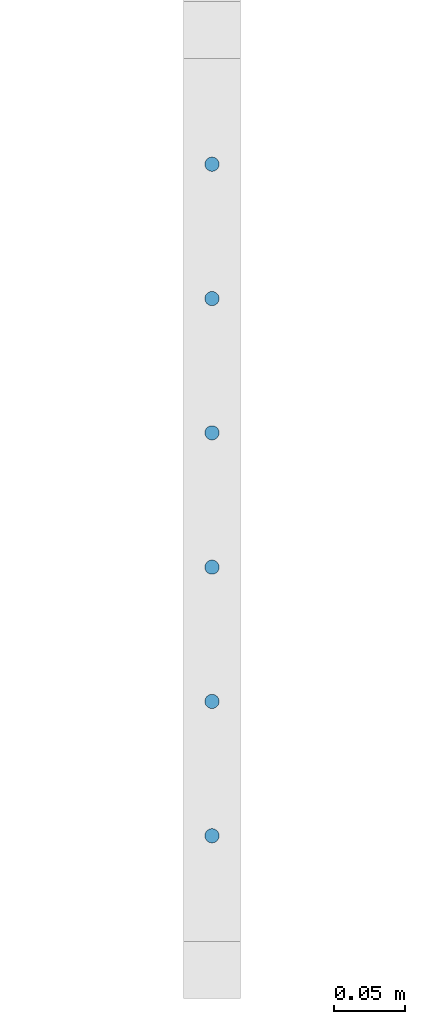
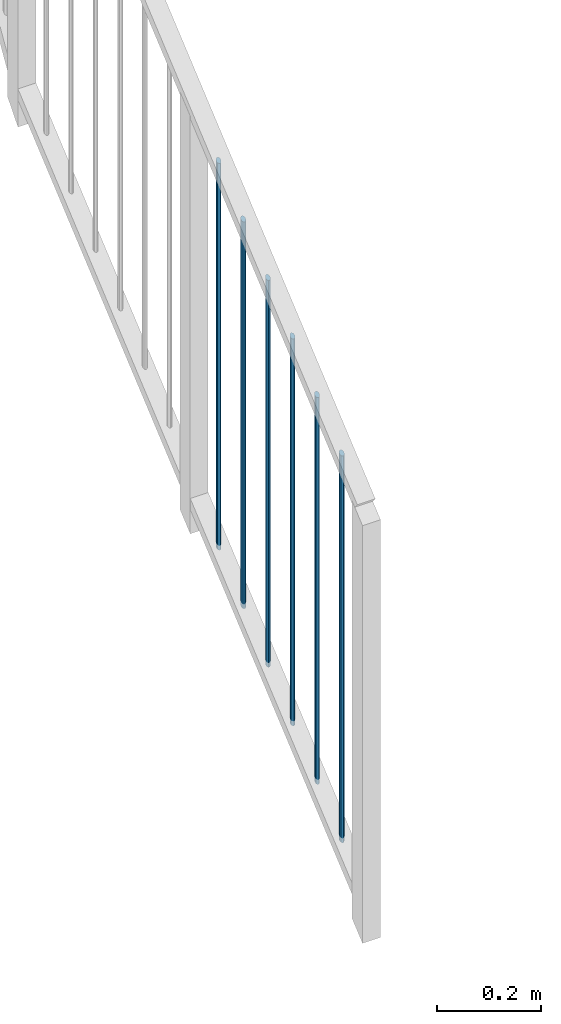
# One storey, part 7 of 135: 6 members, 1 element without a shape of its own.
"""IFC2X3 building model written with IfcOpenShell, lengths in millimetres."""

from ifc_helpers import new_model, entity, si_unit, converted_unit, derived_unit, money_unit, direction, frame, origin_with_axes, place, context, subcontext, project, spatial, faceted_brep, source, transform, mapped, material, type_object, type_shapes, element, aggregate, save


model = new_model("IFC2X3")

# Units and contexts
model_context = context("Model", 3, precision=0.01, world=origin_with_axes(), true_north=direction((0.0, 1.0)))
body_context = subcontext(model_context, "Body", "Model", "MODEL_VIEW")
ifc_project = project(units=[si_unit("LENGTHUNIT", "METRE", prefix="MILLI"), si_unit("AREAUNIT", "SQUARE_METRE"), si_unit("VOLUMEUNIT", "CUBIC_METRE"), converted_unit("PLANEANGLEUNIT", "DEGREE", entity("IfcPlaneAngleMeasure", 0.0174532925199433), si_unit("PLANEANGLEUNIT", "RADIAN"), dimensions=[0, 0, 0, 0, 0, 0, 0]), money_unit("EUR"), converted_unit("TIMEUNIT", "Year", entity("IfcTimeMeasure", 31557600.0), si_unit("TIMEUNIT", "SECOND"), dimensions=[0, 0, 1, 0, 0, 0, 0]), si_unit("MASSUNIT", "GRAM", prefix="KILO"), si_unit("THERMODYNAMICTEMPERATUREUNIT", "DEGREE_CELSIUS"), si_unit("LUMINOUSINTENSITYUNIT", "LUMEN"), si_unit("ENERGYUNIT", "JOULE", prefix="MEGA"), derived_unit("THERMALCONDUCTANCEUNIT", [(si_unit("POWERUNIT", "WATT"), 1), (si_unit("LENGTHUNIT", "METRE"), -1), (si_unit("THERMODYNAMICTEMPERATUREUNIT", "KELVIN"), -1)]), derived_unit("SPECIFICHEATCAPACITYUNIT", [(si_unit("ENERGYUNIT", "JOULE"), 1), (si_unit("MASSUNIT", "GRAM", prefix="KILO"), -1), (si_unit("THERMODYNAMICTEMPERATUREUNIT", "KELVIN"), -1)]), derived_unit("MASSDENSITYUNIT", [(si_unit("MASSUNIT", "GRAM", prefix="KILO"), 1), (si_unit("VOLUMEUNIT", "CUBIC_METRE"), -1)])], contexts=[model_context])

# Site, building, storey
site_placement = place(None, origin_with_axes())
site = spatial("IfcSite", under=ifc_project, at=site_placement, Name="Site", CompositionType="ELEMENT")
building_placement = place(site_placement, origin_with_axes())
building = spatial("IfcBuilding", under=site, at=building_placement, Name="Naam gebouw", CompositionType="ELEMENT")
storey_placement = place(building_placement, origin_with_axes())
storey = spatial("IfcBuildingStorey", under=building, at=storey_placement, Name="Begane grond N", CompositionType="ELEMENT", Elevation=0.0)

# Railing, members
railing_type = type_object("IfcRailingType", Name="Railing Type", PredefinedType="NOTDEFINED")
railing_placement = place(storey_placement, frame((799.9999999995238, 21575.82979156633, 4340.731848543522), z_axis=(0.0, 0.0, 1.0), x_axis=(1.0, 0.0, 0.0)))
railing = element("IfcRailing", 1, at=railing_placement, inside=storey, type_object=railing_type, Name="_Reling-x", PredefinedType="NOTDEFINED")
ifc_material = material(Name="Metaal - Staal C")
member_type = type_object("IfcMemberType", Name="IfcMember", PredefinedType="MEMBER")
shared_shape = source(origin_with_axes(), body_context, "Body", "Brep", [
    faceted_brep([(0.0, -5.0, -4.223047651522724), (0.8682408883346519, -4.92403876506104, -4.158890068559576), (0.8682408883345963, -4.92403876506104, 903.3411099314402), (0.0, -5.0, 903.276952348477), (-0.8682408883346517, -4.92403876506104, -4.158890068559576), (-1.710100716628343, -4.698463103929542, -3.968366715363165), (-2.500000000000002, -4.330127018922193, -3.657266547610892), (-3.213938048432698, -3.830222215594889, -3.235042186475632), (-3.830222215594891, -3.213938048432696, -2.714522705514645), (-4.330127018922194, -2.5, -2.111523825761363), (-4.698463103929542, -1.710100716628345, -1.444367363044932), (-4.924038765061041, -0.86824088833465, -0.7333245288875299), (-5.0, 0.0, 0.0), (-4.92403876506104, 0.8682408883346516, 0.7333245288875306), (-4.698463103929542, 1.710100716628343, 1.44436736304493), (-4.330127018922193, 2.500000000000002, 2.111523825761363), (-3.83022221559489, 3.213938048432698, 2.714522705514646), (-3.213938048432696, 3.83022221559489, 3.235042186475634), (-2.500000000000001, 4.330127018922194, 3.657266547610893), (-1.710100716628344, 4.698463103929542, 3.968366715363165), (-0.8682408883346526, 4.92403876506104, 4.158890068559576), (0.0, 5.0, 4.223047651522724), (0.8682408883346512, 4.92403876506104, 4.158890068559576), (1.710100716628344, 4.698463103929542, 3.968366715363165), (2.499999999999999, 4.330127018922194, 3.657266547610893), (3.213938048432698, 3.83022221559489, 3.235042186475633), (3.83022221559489, 3.213938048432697, 2.714522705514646), (4.330127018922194, 2.499999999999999, 2.111523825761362), (4.698463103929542, 1.710100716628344, 1.444367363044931), (4.92403876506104, 0.8682408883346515, 0.7333245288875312), (5.0, 0.0, 0.0), (4.92403876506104, -0.8682408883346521, -0.7333245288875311), (4.698463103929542, -1.710100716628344, -1.444367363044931), (4.330127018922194, -2.5, -2.111523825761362), (3.83022221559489, -3.213938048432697, -2.714522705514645), (3.213938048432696, -3.83022221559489, -3.235042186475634), (2.5, -4.330127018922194, -3.657266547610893), (1.710100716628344, -4.698463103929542, -3.968366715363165), (1.710100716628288, -4.698463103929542, 903.5316332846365), (2.499999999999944, -4.330127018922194, 903.8427334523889), (3.213938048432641, -3.83022221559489, 904.2649578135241), (3.830222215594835, -3.213938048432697, 904.7854772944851), (4.330127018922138, -2.5, 905.3884761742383), (4.698463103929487, -1.710100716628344, 906.0556326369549), (4.924038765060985, -0.8682408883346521, 906.7666754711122), (4.999999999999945, 0.0, 907.4999999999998), (4.924038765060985, 0.8682408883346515, 908.2333245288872), (4.698463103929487, 1.710100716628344, 908.9443673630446), (4.330127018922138, 2.499999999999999, 909.6115238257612), (3.830222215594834, 3.213938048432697, 910.2145227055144), (3.213938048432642, 3.83022221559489, 910.7350421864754), (2.499999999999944, 4.330127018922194, 911.1572665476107), (1.710100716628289, 4.698463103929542, 911.4683667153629), (0.8682408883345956, 4.92403876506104, 911.6588900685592), (0.0, 5.0, 911.7230476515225), (-0.8682408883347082, 4.92403876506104, 911.6588900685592), (-1.710100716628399, 4.698463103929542, 911.4683667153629), (-2.500000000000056, 4.330127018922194, 911.1572665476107), (-3.213938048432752, 3.83022221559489, 910.7350421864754), (-3.830222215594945, 3.213938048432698, 910.2145227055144), (-4.330127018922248, 2.500000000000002, 909.6115238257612), (-4.698463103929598, 1.710100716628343, 908.9443673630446), (-4.924038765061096, 0.8682408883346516, 908.2333245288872), (-5.000000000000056, 0.0, 907.4999999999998), (-4.924038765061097, -0.86824088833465, 906.7666754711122), (-4.698463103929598, -1.710100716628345, 906.0556326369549), (-4.330127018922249, -2.5, 905.3884761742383), (-3.830222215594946, -3.213938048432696, 904.7854772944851), (-3.213938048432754, -3.830222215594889, 904.2649578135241), (-2.500000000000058, -4.330127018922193, 903.8427334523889), (-1.710100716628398, -4.698463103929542, 903.5316332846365), (-0.8682408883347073, -4.92403876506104, 903.3411099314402)], [[[0, 1, 2, 3]], [[0, 4, 5, 6, 7, 8, 9, 10, 11, 12, 13, 14, 15, 16, 17, 18, 19, 20, 21, 22, 23, 24, 25, 26, 27, 28, 29, 30, 31, 32, 33, 34, 35, 36, 37, 1]], [[1, 37, 38, 2]], [[3, 2, 38, 39, 40, 41, 42, 43, 44, 45, 46, 47, 48, 49, 50, 51, 52, 53, 54, 55, 56, 57, 58, 59, 60, 61, 62, 63, 64, 65, 66, 67, 68, 69, 70, 71]], [[4, 0, 3, 71]], [[5, 4, 71, 70]], [[6, 5, 70, 69]], [[7, 6, 69, 68]], [[8, 7, 68, 67]], [[9, 8, 67, 66]], [[10, 9, 66, 65]], [[11, 10, 65, 64]], [[12, 11, 64, 63]], [[13, 12, 63, 62]], [[14, 13, 62, 61]], [[15, 14, 61, 60]], [[16, 15, 60, 59]], [[17, 16, 59, 58]], [[18, 17, 58, 57]], [[19, 18, 57, 56]], [[20, 19, 56, 55]], [[21, 20, 55, 54]], [[22, 21, 54, 53]], [[23, 22, 53, 52]], [[24, 23, 52, 51]], [[25, 24, 51, 50]], [[26, 25, 50, 49]], [[27, 26, 49, 48]], [[28, 27, 48, 47]], [[29, 28, 47, 46]], [[30, 29, 46, 45]], [[31, 30, 45, 44]], [[32, 31, 44, 43]], [[33, 32, 43, 42]], [[34, 33, 42, 41]], [[35, 34, 41, 40]], [[36, 35, 40, 39]], [[37, 36, 39, 38]]]),
])
type_shapes(member_type, [shared_shape])
member_1_placement = place(railing_placement, frame((-124.9824699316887, 94.61192213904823, 149.9101311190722), z_axis=(0.0, 0.0, 1.0), x_axis=(1.0, 0.0, 0.0)))
member_1 = element("IfcMember", 2, at=member_1_placement, type_object=member_type, material=ifc_material, Name="_Spijlen-x", ObjectType="MEMBER", context=body_context, shape_type="MappedRepresentation", body=[
    mapped(shared_shape, transform((0.0, 0.0, 0.0))),
])
member_2_placement = place(railing_placement, frame((-124.9824699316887, 189.2238442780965, 229.8202622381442), z_axis=(0.0, 0.0, 1.0), x_axis=(1.0, 0.0, 0.0)))
member_2 = element("IfcMember", 3, at=member_2_placement, type_object=member_type, material=ifc_material, Name="_Spijlen-x", ObjectType="MEMBER", context=body_context, shape_type="MappedRepresentation", body=[
    mapped(shared_shape, transform((0.0, 0.0, 0.0))),
])
member_3_placement = place(railing_placement, frame((-124.9824699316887, 283.8357664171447, 309.7303933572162), z_axis=(0.0, 0.0, 1.0), x_axis=(1.0, 0.0, 0.0)))
member_3 = element("IfcMember", 4, at=member_3_placement, type_object=member_type, material=ifc_material, Name="_Spijlen-x", ObjectType="MEMBER", context=body_context, shape_type="MappedRepresentation", body=[
    mapped(shared_shape, transform((0.0, 0.0, 0.0))),
])
member_4_placement = place(railing_placement, frame((-124.9824699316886, 378.4476885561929, 389.6405244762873), z_axis=(0.0, 0.0, 1.0), x_axis=(1.0, 0.0, 0.0)))
member_4 = element("IfcMember", 5, at=member_4_placement, type_object=member_type, material=ifc_material, Name="_Spijlen-x", ObjectType="MEMBER", context=body_context, shape_type="MappedRepresentation", body=[
    mapped(shared_shape, transform((0.0, 0.0, 0.0))),
])
member_5_placement = place(railing_placement, frame((-124.9824699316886, 473.0596106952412, 469.5506555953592), z_axis=(0.0, 0.0, 1.0), x_axis=(1.0, 0.0, 0.0)))
member_5 = element("IfcMember", 6, at=member_5_placement, type_object=member_type, material=ifc_material, Name="_Spijlen-x", ObjectType="MEMBER", context=body_context, shape_type="MappedRepresentation", body=[
    mapped(shared_shape, transform((0.0, 0.0, 0.0))),
])
member_6_placement = place(railing_placement, frame((-124.9824699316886, 567.6715328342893, 549.4607867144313), z_axis=(0.0, 0.0, 1.0), x_axis=(1.0, 0.0, 0.0)))
member_6 = element("IfcMember", 7, at=member_6_placement, type_object=member_type, material=ifc_material, Name="_Spijlen-x", ObjectType="MEMBER", context=body_context, shape_type="MappedRepresentation", body=[
    mapped(shared_shape, transform((0.0, 0.0, 0.0))),
])
aggregate(railing, [member_1, member_2, member_3, member_4, member_5, member_6])

save(model, "model.ifc")
